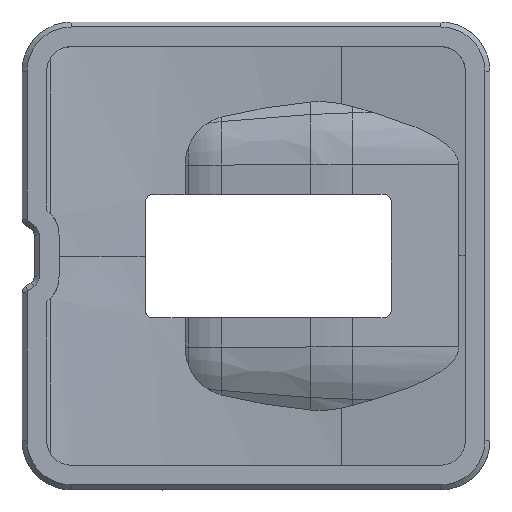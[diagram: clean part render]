
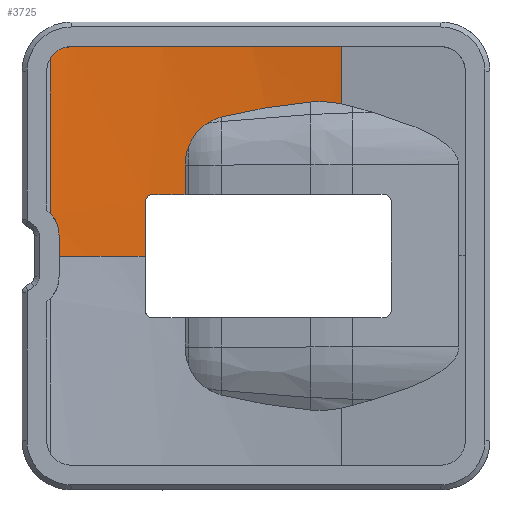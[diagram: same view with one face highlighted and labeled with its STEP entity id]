
A CAD part, top view. The second image highlights one B-rep face of the part: STEP entity #3725.
In plain terms, the highlighted cylindrical face has radius 391 mm (diameter 782 mm), a partial arc.
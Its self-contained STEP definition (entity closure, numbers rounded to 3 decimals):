
#53=VECTOR('Line Direction',#52,1.) ;
#3560=VECTOR('Line Direction',#3559,1.) ;
#3577=VECTOR('Line Direction',#3576,1.) ;
#3639=VECTOR('Line Direction',#3638,1.) ;
#52=DIRECTION('Vector Direction',(0.,1.,0.)) ;
#3338=DIRECTION('Axis2P3D Direction',(0.,1.,0.)) ;
#3559=DIRECTION('Vector Direction',(0.,-1.,0.)) ;
#3576=DIRECTION('Vector Direction',(0.,1.,0.)) ;
#3602=DIRECTION('Axis2P3D Direction',(0.,-1.,0.)) ;
#3638=DIRECTION('Vector Direction',(0.,1.,0.)) ;
#3696=DIRECTION('Axis2P3D Direction',(0.,-1.,0.)) ;
#3697=DIRECTION('Axis2P3D XDirection',(-0.012,0.,1.)) ;
#46=CARTESIAN_POINT('Vertex',(780.284,-697.353,292.858)) ;
#51=CARTESIAN_POINT('Line Origine',(780.284,-674.25,292.859)) ;
#55=CARTESIAN_POINT('Vertex',(780.284,-634.726,292.859)) ;
#3301=CARTESIAN_POINT('Vertex',(788.924,-629.761,291.742)) ;
#3305=CARTESIAN_POINT('Control Point',(898.629,-629.76,294.311)) ;
#3306=CARTESIAN_POINT('Control Point',(871.475,-629.76,289.812)) ;
#3307=CARTESIAN_POINT('Control Point',(843.897,-629.761,287.861)) ;
#3308=CARTESIAN_POINT('Control Point',(816.259,-629.761,288.519)) ;
#3309=CARTESIAN_POINT('Control Point',(788.924,-629.761,291.742)) ;
#3310=CARTESIAN_POINT('Vertex',(898.629,-629.76,294.311)) ;
#3334=CARTESIAN_POINT('Vertex',(835.103,-689.761,289.052)) ;
#3337=CARTESIAN_POINT('Axis2P3D Location',(834.712,-689.761,680.052)) ;
#3341=CARTESIAN_POINT('Vertex',(821.924,-689.761,289.261)) ;
#3372=CARTESIAN_POINT('Control Point',(821.924,-689.761,289.261)) ;
#3373=CARTESIAN_POINT('Control Point',(820.987,-689.761,289.292)) ;
#3374=CARTESIAN_POINT('Control Point',(820.05,-690.125,289.325)) ;
#3375=CARTESIAN_POINT('Control Point',(819.298,-690.862,289.355)) ;
#3376=CARTESIAN_POINT('Control Point',(818.924,-691.812,289.371)) ;
#3377=CARTESIAN_POINT('Control Point',(818.924,-692.761,289.371)) ;
#3378=CARTESIAN_POINT('Vertex',(818.924,-692.761,289.371)) ;
#3399=CARTESIAN_POINT('Control Point',(898.629,-652.964,294.311)) ;
#3400=CARTESIAN_POINT('Control Point',(898.629,-629.76,294.311)) ;
#3401=CARTESIAN_POINT('Vertex',(898.629,-652.964,294.311)) ;
#3428=CARTESIAN_POINT('Control Point',(886.151,-652.222,292.45)) ;
#3429=CARTESIAN_POINT('Control Point',(889.285,-651.952,292.866)) ;
#3430=CARTESIAN_POINT('Control Point',(892.441,-651.99,293.319)) ;
#3431=CARTESIAN_POINT('Control Point',(895.567,-652.34,293.804)) ;
#3432=CARTESIAN_POINT('Control Point',(898.629,-652.964,294.311)) ;
#3433=CARTESIAN_POINT('Vertex',(886.151,-652.222,292.45)) ;
#3455=CARTESIAN_POINT('Control Point',(886.151,-652.222,292.45)) ;
#3456=CARTESIAN_POINT('Control Point',(877.02,-653.008,291.238)) ;
#3457=CARTESIAN_POINT('Control Point',(867.893,-654.3,290.319)) ;
#3458=CARTESIAN_POINT('Control Point',(858.824,-656.08,289.693)) ;
#3459=CARTESIAN_POINT('Control Point',(849.854,-658.312,289.345)) ;
#3460=CARTESIAN_POINT('Vertex',(849.854,-658.312,289.345)) ;
#3481=CARTESIAN_POINT('Control Point',(844.108,-660.86,289.165)) ;
#3482=CARTESIAN_POINT('Control Point',(845.419,-660.013,289.196)) ;
#3483=CARTESIAN_POINT('Control Point',(846.818,-659.278,289.236)) ;
#3484=CARTESIAN_POINT('Control Point',(848.308,-658.697,289.285)) ;
#3485=CARTESIAN_POINT('Control Point',(849.854,-658.312,289.345)) ;
#3486=CARTESIAN_POINT('Vertex',(844.108,-660.86,289.165)) ;
#3514=CARTESIAN_POINT('Vertex',(836.463,-670.523,289.056)) ;
#3518=CARTESIAN_POINT('Control Point',(836.463,-670.523,289.056)) ;
#3519=CARTESIAN_POINT('Control Point',(837.399,-667.989,289.06)) ;
#3520=CARTESIAN_POINT('Control Point',(838.717,-665.703,289.069)) ;
#3521=CARTESIAN_POINT('Control Point',(840.321,-663.752,289.086)) ;
#3522=CARTESIAN_POINT('Control Point',(842.137,-662.133,289.117)) ;
#3523=CARTESIAN_POINT('Control Point',(844.108,-660.86,289.165)) ;
#3539=CARTESIAN_POINT('Control Point',(835.103,-677.799,289.052)) ;
#3540=CARTESIAN_POINT('Control Point',(835.103,-675.904,289.052)) ;
#3541=CARTESIAN_POINT('Control Point',(835.356,-674.008,289.052)) ;
#3542=CARTESIAN_POINT('Control Point',(835.839,-672.215,289.053)) ;
#3543=CARTESIAN_POINT('Control Point',(836.463,-670.523,289.056)) ;
#3544=CARTESIAN_POINT('Vertex',(835.103,-677.799,289.052)) ;
#3558=CARTESIAN_POINT('Line Origine',(835.103,-714.761,289.052)) ;
#3575=CARTESIAN_POINT('Line Origine',(818.924,-703.761,289.371)) ;
#3579=CARTESIAN_POINT('Vertex',(818.924,-714.761,289.371)) ;
#3601=CARTESIAN_POINT('Axis2P3D Location',(834.712,-714.761,680.052)) ;
#3605=CARTESIAN_POINT('Vertex',(783.924,-714.761,292.364)) ;
#3637=CARTESIAN_POINT('Line Origine',(783.924,-714.761,292.364)) ;
#3641=CARTESIAN_POINT('Vertex',(783.924,-706.375,292.364)) ;
#3680=CARTESIAN_POINT('Control Point',(780.284,-634.726,292.859)) ;
#3681=CARTESIAN_POINT('Control Point',(781.601,-632.465,292.673)) ;
#3682=CARTESIAN_POINT('Control Point',(783.711,-630.666,292.381)) ;
#3683=CARTESIAN_POINT('Control Point',(786.321,-629.761,292.049)) ;
#3684=CARTESIAN_POINT('Control Point',(788.924,-629.761,291.742)) ;
#3695=CARTESIAN_POINT('Axis2P3D Location',(834.712,-664.761,680.052)) ;
#3701=CARTESIAN_POINT('Control Point',(783.924,-706.375,292.364)) ;
#3702=CARTESIAN_POINT('Control Point',(783.924,-703.865,292.364)) ;
#3703=CARTESIAN_POINT('Control Point',(783.275,-701.351,292.449)) ;
#3704=CARTESIAN_POINT('Control Point',(781.992,-699.125,292.618)) ;
#3705=CARTESIAN_POINT('Control Point',(780.284,-697.353,292.858)) ;
#3339=AXIS2_PLACEMENT_3D('Circle Axis2P3D',#3337,#3338,$) ;
#3603=AXIS2_PLACEMENT_3D('Circle Axis2P3D',#3601,#3602,$) ;
#3698=AXIS2_PLACEMENT_3D('Cylinder Axis2P3D',#3695,#3696,#3697) ;
#57=EDGE_CURVE('',#47,#56,#54,.T.) ;
#3312=EDGE_CURVE('',#3302,#3311,#3304,.F.) ;
#3343=EDGE_CURVE('',#3335,#3342,#3340,.T.) ;
#3380=EDGE_CURVE('',#3342,#3379,#3371,.T.) ;
#3403=EDGE_CURVE('',#3402,#3311,#3398,.T.) ;
#3435=EDGE_CURVE('',#3434,#3402,#3427,.T.) ;
#3462=EDGE_CURVE('',#3434,#3461,#3454,.T.) ;
#3488=EDGE_CURVE('',#3487,#3461,#3480,.T.) ;
#3524=EDGE_CURVE('',#3515,#3487,#3517,.T.) ;
#3546=EDGE_CURVE('',#3545,#3515,#3538,.T.) ;
#3562=EDGE_CURVE('',#3545,#3335,#3561,.T.) ;
#3581=EDGE_CURVE('',#3580,#3379,#3578,.T.) ;
#3607=EDGE_CURVE('',#3606,#3580,#3604,.T.) ;
#3643=EDGE_CURVE('',#3606,#3642,#3640,.T.) ;
#3685=EDGE_CURVE('',#56,#3302,#3679,.T.) ;
#3706=EDGE_CURVE('',#3642,#47,#3700,.T.) ;
#3708=ORIENTED_EDGE('',*,*,#3643,.F.) ;
#3709=ORIENTED_EDGE('',*,*,#3607,.T.) ;
#3710=ORIENTED_EDGE('',*,*,#3581,.T.) ;
#3711=ORIENTED_EDGE('',*,*,#3380,.F.) ;
#3712=ORIENTED_EDGE('',*,*,#3343,.F.) ;
#3713=ORIENTED_EDGE('',*,*,#3562,.F.) ;
#3714=ORIENTED_EDGE('',*,*,#3546,.T.) ;
#3715=ORIENTED_EDGE('',*,*,#3524,.T.) ;
#3716=ORIENTED_EDGE('',*,*,#3488,.T.) ;
#3717=ORIENTED_EDGE('',*,*,#3462,.F.) ;
#3718=ORIENTED_EDGE('',*,*,#3435,.T.) ;
#3719=ORIENTED_EDGE('',*,*,#3403,.T.) ;
#3720=ORIENTED_EDGE('',*,*,#3312,.F.) ;
#3721=ORIENTED_EDGE('',*,*,#3685,.F.) ;
#3722=ORIENTED_EDGE('',*,*,#57,.F.) ;
#3723=ORIENTED_EDGE('',*,*,#3706,.F.) ;
#54=LINE('Line',#51,#53) ;
#3561=LINE('Line',#3558,#3560) ;
#3578=LINE('Line',#3575,#3577) ;
#3640=LINE('Line',#3637,#3639) ;
#3725=ADVANCED_FACE('\X2\5EA776C6\X0\-3.1',(#3724),#3699,.F.) ;
#3340=CIRCLE('generated circle',#3339,391.) ;
#3604=CIRCLE('generated circle',#3603,391.) ;
#3699=CYLINDRICAL_SURFACE('generated cylinder',#3698,391.) ;
#47=VERTEX_POINT('',#46) ;
#56=VERTEX_POINT('',#55) ;
#3302=VERTEX_POINT('',#3301) ;
#3311=VERTEX_POINT('',#3310) ;
#3335=VERTEX_POINT('',#3334) ;
#3342=VERTEX_POINT('',#3341) ;
#3379=VERTEX_POINT('',#3378) ;
#3402=VERTEX_POINT('',#3401) ;
#3434=VERTEX_POINT('',#3433) ;
#3461=VERTEX_POINT('',#3460) ;
#3487=VERTEX_POINT('',#3486) ;
#3515=VERTEX_POINT('',#3514) ;
#3545=VERTEX_POINT('',#3544) ;
#3580=VERTEX_POINT('',#3579) ;
#3606=VERTEX_POINT('',#3605) ;
#3642=VERTEX_POINT('',#3641) ;
#3304=B_SPLINE_CURVE_WITH_KNOTS('',4,(#3305,#3306,#3307,#3308,#3309),.UNSPECIFIED.,.F.,.U.,(5,5),(549.964,660.063),.UNSPECIFIED.) ;
#3371=B_SPLINE_CURVE_WITH_KNOTS('',5,(#3372,#3373,#3374,#3375,#3376,#3377),.UNSPECIFIED.,.F.,.U.,(6,6),(0.,6.705),.UNSPECIFIED.) ;
#3398=B_SPLINE_CURVE_WITH_KNOTS('',1,(#3399,#3400),.UNSPECIFIED.,.F.,.U.,(2,2),(61.797,85.),.UNSPECIFIED.) ;
#3427=B_SPLINE_CURVE_WITH_KNOTS('',4,(#3428,#3429,#3430,#3431,#3432),.UNSPECIFIED.,.F.,.U.,(5,5),(0.,17.441),.UNSPECIFIED.) ;
#3454=B_SPLINE_CURVE_WITH_KNOTS('',4,(#3455,#3456,#3457,#3458,#3459),.UNSPECIFIED.,.F.,.U.,(5,5),(0.,52.895),.UNSPECIFIED.) ;
#3480=B_SPLINE_CURVE_WITH_KNOTS('',4,(#3481,#3482,#3483,#3484,#3485),.UNSPECIFIED.,.F.,.U.,(5,5),(0.,8.072),.UNSPECIFIED.) ;
#3517=B_SPLINE_CURVE_WITH_KNOTS('',5,(#3518,#3519,#3520,#3521,#3522,#3523),.UNSPECIFIED.,.F.,.U.,(6,6),(0.,14.176),.UNSPECIFIED.) ;
#3538=B_SPLINE_CURVE_WITH_KNOTS('',4,(#3539,#3540,#3541,#3542,#3543),.UNSPECIFIED.,.F.,.U.,(5,5),(0.,8.39),.UNSPECIFIED.) ;
#3679=B_SPLINE_CURVE_WITH_KNOTS('',4,(#3680,#3681,#3682,#3683,#3684),.UNSPECIFIED.,.F.,.U.,(5,5),(0.,23.459),.UNSPECIFIED.) ;
#3700=B_SPLINE_CURVE_WITH_KNOTS('',4,(#3701,#3702,#3703,#3704,#3705),.UNSPECIFIED.,.F.,.U.,(5,5),(0.,10.304),.UNSPECIFIED.) ;
#3707=EDGE_LOOP('',(#3708,#3709,#3710,#3711,#3712,#3713,#3714,#3715,#3716,#3717,#3718,#3719,#3720,#3721,#3722,#3723)) ;
#3724=FACE_OUTER_BOUND('',#3707,.T.) ;
